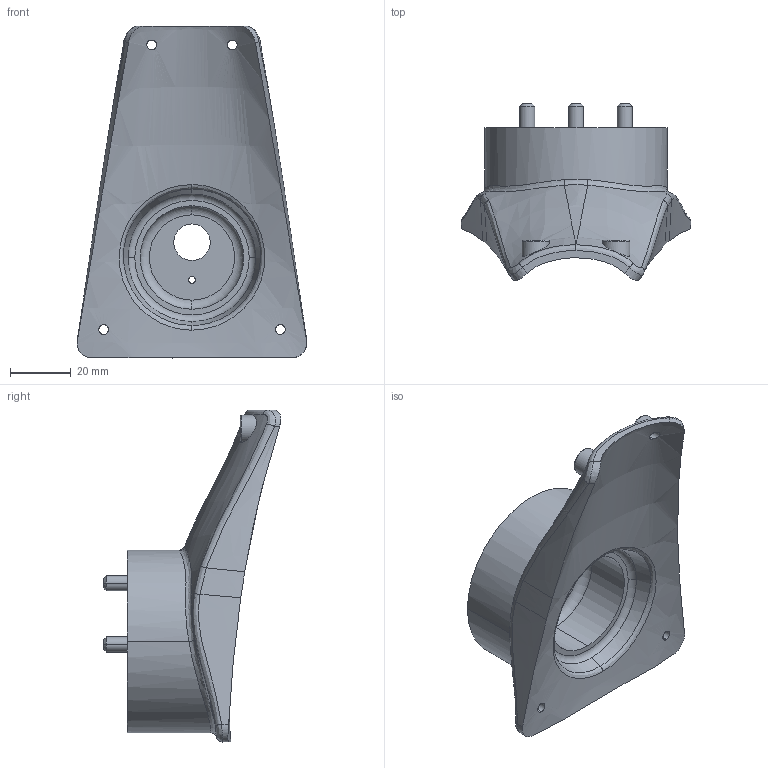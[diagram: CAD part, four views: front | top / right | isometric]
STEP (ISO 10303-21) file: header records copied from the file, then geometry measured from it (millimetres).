
FILE_DESCRIPTION((''),'2;1');
FILE_NAME('FRAME_GO2-O1','2025-11-14T10:07:38',('vevem'),(''),'CREO PARAMETRIC BY PTC INC, 2024253','CREO PARAMETRIC BY PTC INC, 2024253','');
FILE_SCHEMA(('AUTOMOTIVE_DESIGN { 1 0 10303 214 1 1 1 1 }'));
Length unit declared in the file: millimetre
Products named in the file (1): FRAME_GO2-O1
Bounding box: 75.5 x 58.36 x 109 mm (x, y, z)
Volume: 98987.6 mm3; surface area: 24033.8 mm2
Topology: 1 solids, 1 shells, 115 faces, 262 edges, 164 vertices
Faces by surface type: cylinder 40, bspline 37, plane 18, torus 12, cone 8
Entity records: 9103 total; most frequent: CARTESIAN_POINT 5847, ORIENTED_EDGE 524, DIRECTION 438, PRESENTATION_STYLE_ASSIGNMENT 263, STYLED_ITEM 263, CURVE_STYLE 262, EDGE_CURVE 262, AXIS2_PLACEMENT_3D 196
